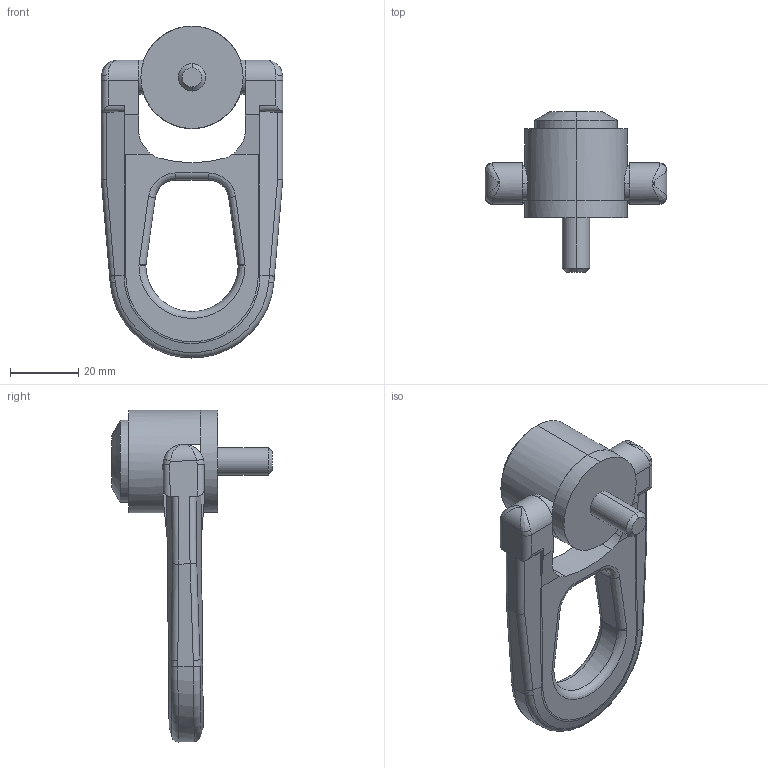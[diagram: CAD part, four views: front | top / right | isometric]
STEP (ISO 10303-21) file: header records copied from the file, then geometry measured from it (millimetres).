
FILE_DESCRIPTION (( 'STEP AP203' ), '1' );
FILE_NAME ('63200.W0008.step', '2013-12-13T15:20:49', ( 'User' ), ( '' ), 'SwSTEP 2.0', 'SolidWorks 2009', '' );
FILE_SCHEMA (( 'CONFIG_CONTROL_DESIGN' ));
Length unit declared in the file: millimetre
Products named in the file (3): 63200.W0008; Part1_63200.W0008; Part2
Assembly tree (2 placements, depth 2):
  63200.W0008
    Part2
    Part1_63200.W0008
Bounding box: 53 x 47 x 97.02 mm (x, y, z)
Volume: 42409.2 mm3; surface area: 14186.7 mm2
Topology: 2 solids, 2 shells, 137 faces, 343 edges, 211 vertices
Faces by surface type: plane 49, cylinder 46, bspline 28, torus 7, cone 7
Entity records: 6512 total; most frequent: CARTESIAN_POINT 3175, ORIENTED_EDGE 686, DIRECTION 583, EDGE_CURVE 343, AXIS2_PLACEMENT_3D 217, VERTEX_POINT 211, VECTOR 149, LINE 149
